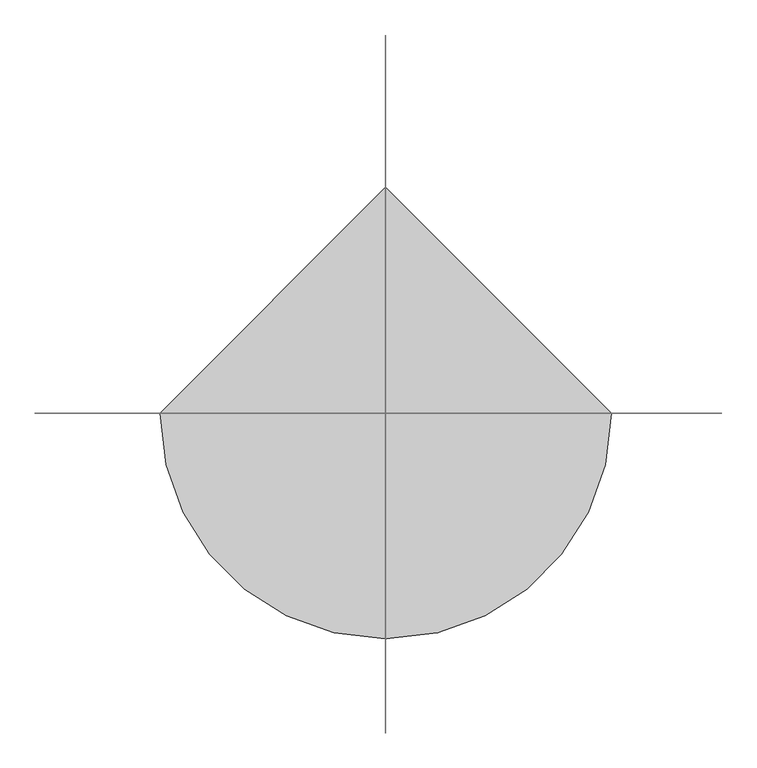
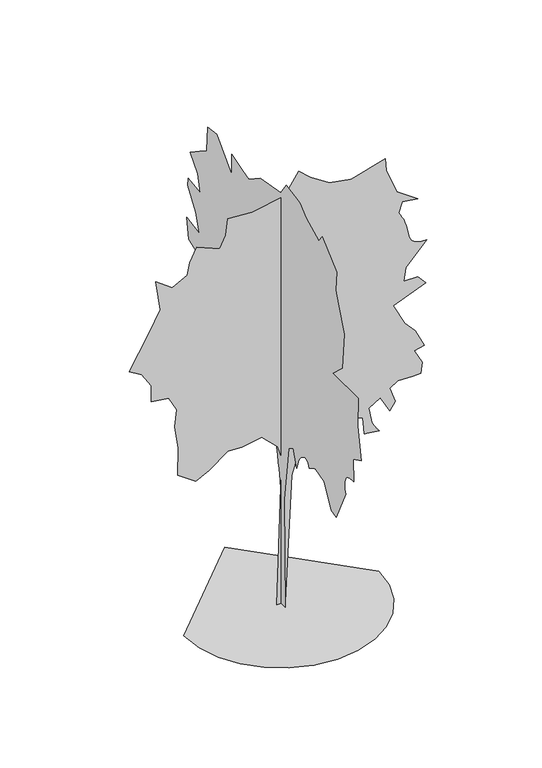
"""IFC4 building model written with IfcOpenShell, lengths in millimetres: geographic element geometry, Vegetacion PAEMFE : IBIRAPITA."""

from ifc_helpers import new_model, si_unit, origin, place, context, project, spatial, triangles, source, transform, mapped, element, save


def geographic_element_fd73dbfa(model_context):
    return source(origin(), model_context, "Body", "Tessellation", [
        triangles([(0.0103135, -195.3249235, 0.9646173), (0.0104112, -147.0666046, 3137.4779686), (0.0104368, -364.227986, 4754.1231857), (0.0104184, -581.3883136, 4898.8940002), (0.0103864, -750.2913397, 4416.3211304), (0.0103869, -766.2601324, 4488.633577), (0.0103871, -784.9725803, 4560.5294792), (0.0103867, -809.1715393, 4631.5815376), (0.0103854, -841.6007372, 4701.3627434), (0.0103829, -885.005864, 4769.4565521), (0.0103789, -942.1277407, 4835.4458382), (0.0103731, -1015.7100225, 4898.8940002), (0.0103666, -1091.4058382, 4944.7586426), (0.0103605, -1154.4370199, 4961.5082016), (0.0103548, -1206.9161568, 4953.9772659), (0.0103494, -1250.9474808, 4927.0399567), (0.0103443, -1288.6557896, 4885.5291183), (0.0103392, -1322.1453152, 4834.3209068), (0.0103343, -1353.5202896, 4778.2481667), (0.0103091, -1643.0617733, 4947.1544266), (0.0102602, -2077.384536, 4826.508593), (0.0102063, -2415.1865913, 4199.1544441), (0.0101815, -2632.3529869, 4126.7693275), (0.0101617, -3090.8008759, 5067.7999695), (0.0101653, -3075.6029663, 5134.9772644), (0.0101687, -3062.3113358, 5201.9458511), (0.0101717, -3052.8113342, 5268.4976028), (0.010174, -3049.0092407, 5334.4145096), (0.0101756, -3052.8113342, 5399.4872818), (0.0101761, -3066.1134293, 5463.4979095), (0.0101754, -3090.8008759, 5526.2475677), (0.0101732, -3126.7486816, 5579.8518539), (0.0101697, -3171.5613533, 5618.2686951), (0.010165, -3223.7590393, 5644.008403), (0.0101594, -3281.8633415, 5659.6225662), (0.0101531, -3344.4048729, 5667.6435883), (0.0101464, -3409.8944801, 5670.6021286), (0.0101394, -3476.8630669, 5671.0183823), (0.0101614, -3452.7380859, 6322.5076859), (0.0101268, -3838.8005676, 6515.5389267), (0.0101718, -3669.8943077, 7432.4347046), (0.0101937, -3694.0297531, 8252.8195129), (0.0103196, -2487.5719986, 8252.8195129), (0.0102865, -2921.8946159, 8663.0171494), (0.0103081, -3018.4154686, 9724.6942062), (0.0103552, -2752.9988205, 10376.172464), (0.0103818, -2608.2178322, 10762.1826233), (0.0103933, -2656.4779678, 11317.1824677), (0.0104824, -1980.8741478, 11944.5790558), (0.0104935, -1811.9680332, 11727.3911499), (0.0105651, -1208.7390833, 12016.9746368), (0.0106057, -895.0662964, 12282.3909943), (0.0106773, -243.584278, 12403.0161896), (0.0106935, 21.8346797, 12016.9746368), (0.0107917, 1011.1225119, 11848.0163452), (0.0108387, 1566.0930702, 11486.1407593), (0.0108711, 1855.6346992, 11558.5375031), (0.010929, 2362.3428692, 11727.3911499), (0.010911, 2362.3428692, 11124.1616913), (0.0110088, 3086.2174347, 11872.182312), (0.0110527, 3520.5298782, 11823.9538605), (0.0110451, 3544.6653236, 11486.1407593), (0.0110361, 3568.7903046, 11099.9957245), (0.0110649, 3906.6025337, 10882.9124634), (0.0111033, 4365.0504227, 10569.1630096), (0.0110534, 4003.1129219, 10159.0066498), (0.0110265, 3882.4670883, 9676.4337799), (0.011089, 4461.5608109, 9748.8188965), (0.011085, 4485.6962563, 9531.6629654), (0.0110282, 4099.6337746, 8976.6945145), (0.0109955, 3930.7275146, 8469.9859085), (0.0110613, 4533.9563919, 8566.4962967), (0.011034, 4437.4358299, 7987.4031555), (0.0109919, 4075.4983292, 7842.632341), (0.0109376, 3568.7903046, 7794.3719147), (0.0109099, 3448.144471, 7287.6638901), (0.0108477, 3037.9570084, 6636.185051), (0.0108219, 2796.6656319, 6612.0493149), (0.0107859, 2507.1135384, 6419.018074), (0.0107884, 2676.0197983, 5912.3100494), (0.0107557, 2458.8635765, 5574.5079941), (0.0107446, 2482.9885574, 5116.0603958), (0.0107665, 2796.6656319, 4754.1231857), (0.0107295, 2482.9885574, 4609.3523712), (0.0107316, 2338.2177429, 5188.4460937), (0.0107032, 2072.8012402, 5164.3103577), (0.0106669, 1807.3742729, 4874.7690193), (0.010659, 1855.6346992, 4440.4461113), (0.0106543, 1928.0201065, 4030.2589394), (0.0106306, 1638.4784775, 4247.4148705), (0.0106543, 1686.7389038, 4874.7690193), (0.0106403, 1469.5723629, 5164.3103577), (0.010568, 769.8330248, 5188.4460937), (0.0105061, 287.2540506, 4802.3836121), (0.0104768, 166.9613932, 4236.9983551), (0.0104676, 130.8030715, 4057.4046661), (0.0104591, 98.0211063, 3885.4046997), (0.0104512, 69.4604949, 3722.9047348), (0.0104444, 45.9647725, 3571.8005859), (0.0104364, 31.6141541, 3353.1653847), (0.0104255, 28.6596764, 3001.5717293), (0.0104124, 35.2019642, 2539.1865807), (0.0103461, 118.3520328, 0.964636), (-124.4780761, -0.0539458, 0.0), (21.4314498, -0.0544459, 4256.1233505), (-100.1594387, -0.0544767, 4620.8941086), (-537.8872988, -0.0545437, 5058.623204), (-1097.2078823, -0.0545003, 4961.3523972), (-1486.301429, -0.0545271, 4985.6648666), (-1996.9783974, -0.054456, 4596.5816391), (-2361.7490101, -0.0544615, 4402.0295609), (-2872.4362976, -0.0545165, 4766.8003189), (-2848.1133636, -0.0545993, 5544.9871216), (-2945.394635, -0.0546619, 6201.5807648), (-2896.7487671, -0.0547155, 6687.9452637), (-3115.6133148, -0.0547931, 7101.3514252), (-3601.9778137, -0.0547716, 7174.3097626), (-3601.9778137, -0.0548199, 7636.3513275), (-3869.4774742, -0.0548946, 8049.7569077), (-4209.9357628, -0.0548971, 8268.6214554), (-3674.9361511, -0.0550254, 9192.7150497), (-3358.8007965, -0.0551051, 9776.3497742), (-3480.3945374, -0.0551891, 10651.7661072), (-3018.3425079, -0.0551811, 10311.360141), (-2604.9363464, -0.0551811, 10530.2037598), (-2531.978009, -0.055221, 10870.7248352), (-2337.4365406, -0.0552732, 11259.7871338), (-1705.1659767, -0.0552355, 10992.2871826), (-1534.9368324, -0.0552812, 11332.7036133), (-1486.301429, -0.0553323, 11794.7870361), (-805.3871773, -0.0553203, 11746.1411682), (94.3861083, -0.0553443, 11916.3493835), (483.4779382, -0.0554283, 12499.9951538), (799.6142738, -0.0553692, 12208.2245911), (1334.6140308, -0.0553656, 11867.7035156), (1942.5721252, -0.0553416, 11746.1411682), (2890.9778984, -0.0553786, 12013.6411194), (2915.3008324, -0.0553446, 11673.2246887), (3207.113253, -0.0552384, 10943.6413147), (3790.7485588, -0.0551826, 10530.2037598), (3353.0299278, -0.0552116, 10603.224884), (3255.7486565, -0.0551754, 10311.360141), (3302.4777809, -0.05517, 10232.7254059), (3348.1340057, -0.0551641, 10151.3396759), (3391.6653603, -0.0551102, 10064.4124237), (3432.0091187, -0.0551027, 9969.1938171), (3468.0923813, -0.0550937, 9862.9235596), (3498.8631775, -0.0550831, 9742.8192627), (3523.2486076, -0.0550703, 9606.1316757), (3554.7277908, -0.0550589, 9479.3609253), (3605.3526077, -0.0550523, 9387.0485367), (3671.9255791, -0.0550497, 9323.454744), (3751.2588181, -0.0550501, 9282.8298981), (3840.1754837, -0.055053, 9259.4336517), (3935.4568771, -0.0550575, 9247.5274017), (4033.9357498, -0.0550152, 9241.3504532), (3450.3007347, -0.0549645, 8633.4026779), (3401.6653313, -0.054921, 8244.3089859), (3790.7590233, -0.0548966, 8244.3089859), (4009.6131065, -0.0548844, 8001.1220856), (3109.8424461, -0.0548402, 7636.3513275), (3425.9778008, -0.0547456, 7004.0806183), (3717.8006859, -0.05473, 6687.9452637), (3960.9777031, -0.0546912, 6177.2578308), (3693.4777519, -0.0546677, 6104.3099579), (3912.3422997, -0.0545901, 5690.8933319), (3863.7068962, -0.0545568, 5399.0809113), (3644.8423485, -0.0545887, 5374.7579773), (3231.436187, -0.0545665, 5399.0809113), (3012.5716393, -0.0545383, 5253.1648178), (3158.4778496, -0.0545013, 4815.4458961), (3012.5716393, -0.0544699, 4596.5816391), (2745.0716881, -0.0545496, 5058.623204), (2428.9364788, -0.0545104, 4864.0812996), (2501.8844971, -0.0544767, 4499.3003677), (2516.5615082, -0.0544712, 4438.1857841), (2538.894738, -0.0544664, 4379.6233704), (2567.6136246, -0.0544623, 4323.1962914), (2601.4260956, -0.0544585, 4268.4566093), (2639.0822273, -0.0544552, 4214.9982445), (2679.2800644, -0.0544047, 4162.3941879), (2720.7490448, -0.0544017, 4110.2171402), (2307.3428833, -0.0544296, 4158.8525436), (2258.7074799, -0.0544775, 4645.2167519), (1966.8845947, -0.0545177, 4742.4875587), (1675.0721741, -0.0545256, 4985.6648666), (1188.7078932, -0.0545466, 5009.9878006), (1188.7078932, -0.0544332, 4377.7170914), (921.2059072, -0.0544622, 4353.3941574), (994.1600298, -0.0545249, 4912.7169937), (605.0685179, -0.0544789, 4693.8521553), (288.9321822, -0.054351, 3648.1651108), (118.7041189, -0.0539129, 0.4815446), (-2707.9364548, 4.17e-05, 0.9473204), (-2636.3530334, -620.4810219, 0.9472798), (-2432.467804, -1190.2912268, 0.947234), (-2112.613781, -1693.1139507, 0.947184), (-1693.1139507, -2112.613781, 0.947134), (-1190.2912268, -2432.467804, 0.947085), (-620.4799318, -2636.3530334, 0.9470392), (0.0001184, -2707.9364548, 0.9469975), (620.4810219, -2636.3530334, 0.9469652), (1190.2912268, -2432.467804, 0.9469434), (1693.1139507, -2112.613781, 0.946933), (2112.613781, -1693.1139507, 0.946933), (2432.467804, -1190.2912268, 0.9469434), (2636.3530334, -620.4799318, 0.9469652), (2707.9364548, 0.000241, 0.9469975), (-0.0003551, 2707.9364548, 0.9473204)], [[4, 5, 6], [4, 6, 7], [88, 89, 90], [88, 90, 91], [87, 88, 91], [4, 7, 8], [4, 8, 9], [71, 72, 73], [71, 73, 74], [57, 58, 59], [82, 83, 84], [82, 84, 85], [81, 82, 85], [71, 74, 75], [64, 65, 66], [48, 49, 50], [4, 9, 10], [102, 103, 1], [102, 1, 2], [101, 102, 2], [100, 101, 2], [100, 2, 3], [99, 100, 3], [98, 99, 3], [97, 98, 3], [96, 97, 3], [95, 96, 3], [37, 38, 39], [41, 42, 43], [18, 19, 20], [94, 95, 3], [67, 68, 69], [67, 69, 70], [36, 37, 39], [22, 23, 24], [21, 22, 24], [21, 24, 25], [21, 25, 26], [60, 61, 62], [59, 60, 62], [59, 62, 63], [21, 26, 27], [17, 18, 20], [39, 40, 41], [35, 36, 39], [4, 10, 11], [47, 48, 50], [21, 27, 28], [81, 85, 86], [39, 41, 43], [52, 53, 54], [34, 35, 39], [21, 28, 29], [16, 17, 20], [51, 52, 54], [56, 57, 59], [87, 91, 92], [86, 87, 92], [76, 77, 78], [79, 80, 81], [4, 11, 12], [63, 64, 66], [59, 63, 66], [59, 66, 67], [21, 29, 30], [20, 21, 30], [20, 30, 31], [81, 86, 92], [79, 81, 92], [79, 92, 93], [34, 39, 43], [33, 34, 43], [32, 33, 43], [31, 32, 43], [20, 31, 43], [16, 20, 43], [15, 16, 43], [14, 15, 43], [13, 14, 43], [43, 44, 45], [43, 45, 46], [94, 3, 4], [93, 94, 4], [12, 13, 43], [4, 12, 43], [93, 4, 43], [79, 93, 43], [79, 43, 46], [79, 46, 47], [79, 47, 50], [79, 50, 51], [79, 51, 54], [79, 54, 55], [79, 55, 56], [79, 56, 59], [79, 59, 67], [78, 79, 67], [76, 78, 67], [75, 76, 67], [71, 75, 67], [71, 67, 70], [139, 140, 141], [181, 182, 183], [122, 123, 124], [155, 156, 157], [180, 181, 183], [154, 155, 157], [171, 172, 173], [170, 171, 173], [179, 180, 183], [159, 160, 161], [158, 159, 161], [153, 154, 157], [179, 183, 184], [178, 179, 184], [177, 178, 184], [176, 177, 184], [175, 176, 184], [174, 175, 184], [188, 189, 190], [187, 188, 190], [136, 137, 138], [163, 164, 165], [132, 133, 134], [193, 104, 105], [192, 193, 105], [191, 192, 105], [191, 105, 106], [129, 130, 131], [152, 153, 157], [119, 120, 121], [126, 127, 128], [116, 117, 118], [166, 167, 168], [174, 184, 185], [125, 126, 128], [165, 166, 168], [165, 168, 169], [151, 152, 157], [136, 138, 139], [110, 111, 112], [110, 112, 113], [109, 110, 113], [109, 113, 114], [109, 114, 115], [132, 134, 135], [174, 185, 186], [191, 106, 107], [190, 191, 107], [108, 109, 115], [107, 108, 115], [162, 163, 165], [162, 165, 169], [162, 169, 170], [118, 119, 121], [139, 141, 142], [136, 139, 142], [173, 174, 186], [162, 170, 173], [162, 173, 186], [161, 162, 186], [161, 186, 187], [150, 151, 157], [116, 118, 121], [116, 121, 122], [116, 122, 124], [116, 124, 125], [116, 125, 128], [115, 116, 128], [107, 115, 128], [190, 107, 128], [187, 190, 128], [161, 187, 128], [158, 161, 128], [157, 158, 128], [150, 157, 128], [149, 150, 128], [148, 149, 128], [147, 148, 128], [146, 147, 128], [145, 146, 128], [144, 145, 128], [143, 144, 128], [142, 143, 128], [136, 142, 128], [135, 136, 128], [132, 135, 128], [131, 132, 128], [129, 131, 128], [208, 209, 194], [207, 208, 194], [207, 194, 195], [206, 207, 195], [206, 195, 196], [206, 196, 197], [205, 206, 197], [204, 205, 197], [204, 197, 198], [204, 198, 199], [204, 199, 200], [204, 200, 201], [204, 201, 202], [204, 202, 203]], closed=False),
    ])


if __name__ == "__main__":
    model = new_model("IFC4")
    model_context = context("Model", 3, world=origin())
    ifc_project = project(units=[si_unit("LENGTHUNIT", "METRE", prefix="MILLI")], contexts=[model_context])
    site = spatial("IfcSite", under=ifc_project)
    building = spatial("IfcBuilding", under=site)
    placement = place(None, origin())
    geographic_element_shape = geographic_element_fd73dbfa(model_context)
    element("IfcGeographicElement", 1, ObjectType="Vegetacion PAEMFE : IBIRAPITA", at=placement, inside=building, context=model_context, shape_type="MappedRepresentation", body=[
        mapped(geographic_element_shape, transform((0.0, 0.0, 0.0), x_axis=(1.0, 0.0, 0.0), y_axis=(0.0, 1.0, 0.0), z_axis=(0.0, 0.0, 1.0))),
    ])
    save(model, "model.ifc")
